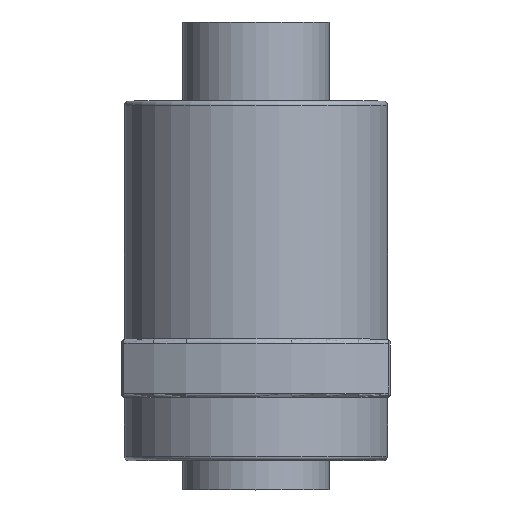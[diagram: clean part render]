
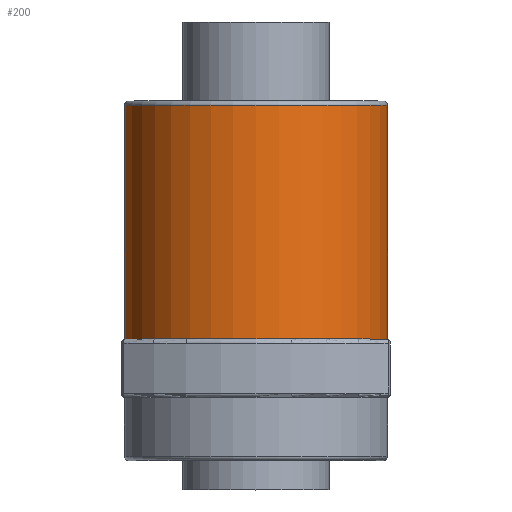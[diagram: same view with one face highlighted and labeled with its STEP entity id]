
A CAD part, top view. The second image highlights one B-rep face of the part: STEP entity #200.
In plain terms, the highlighted cylindrical face has radius 45 mm (diameter 90 mm), a full revolution.
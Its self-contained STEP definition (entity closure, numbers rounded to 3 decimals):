
#200=ADVANCED_FACE('',(#274,#275),#246,.T.);
#246=CYLINDRICAL_SURFACE('',#866,45.);
#274=FACE_BOUND('',#346,.T.);
#275=FACE_BOUND('',#347,.T.);
#346=EDGE_LOOP('',(#454));
#347=EDGE_LOOP('',(#455,#456));
#454=ORIENTED_EDGE('',*,*,#722,.T.);
#455=ORIENTED_EDGE('',*,*,#710,.F.);
#456=ORIENTED_EDGE('',*,*,#694,.F.);
#620=VERTEX_POINT('',#1164);
#621=VERTEX_POINT('',#1166);
#644=VERTEX_POINT('',#1225);
#694=EDGE_CURVE('',#620,#621,#789,.T.);
#710=EDGE_CURVE('',#621,#620,#802,.T.);
#722=EDGE_CURVE('',#644,#644,#808,.T.);
#789=CIRCLE('',#838,45.);
#802=CIRCLE('',#856,45.);
#808=CIRCLE('',#865,45.);
#838=AXIS2_PLACEMENT_3D('',#1165,#950,#951);
#856=AXIS2_PLACEMENT_3D('',#1199,#989,#990);
#865=AXIS2_PLACEMENT_3D('',#1224,#1013,#1014);
#866=AXIS2_PLACEMENT_3D('',#1226,#1015,#1016);
#950=DIRECTION('',(0.,-1.,0.));
#951=DIRECTION('',(1.,0.,0.));
#989=DIRECTION('',(0.,-1.,0.));
#990=DIRECTION('',(1.,0.,0.));
#1013=DIRECTION('',(0.,-1.,0.));
#1014=DIRECTION('',(0.,0.,-1.));
#1015=DIRECTION('',(0.,-1.,0.));
#1016=DIRECTION('',(0.,0.,-1.));
#1164=CARTESIAN_POINT('',(-45.,20.,0.));
#1165=CARTESIAN_POINT('',(0.,20.,0.));
#1166=CARTESIAN_POINT('',(45.,20.,0.));
#1199=CARTESIAN_POINT('',(0.,20.,0.));
#1224=CARTESIAN_POINT('',(0.,100.,0.));
#1225=CARTESIAN_POINT('',(0.,100.,-45.));
#1226=CARTESIAN_POINT('',(0.,101.5,0.));
